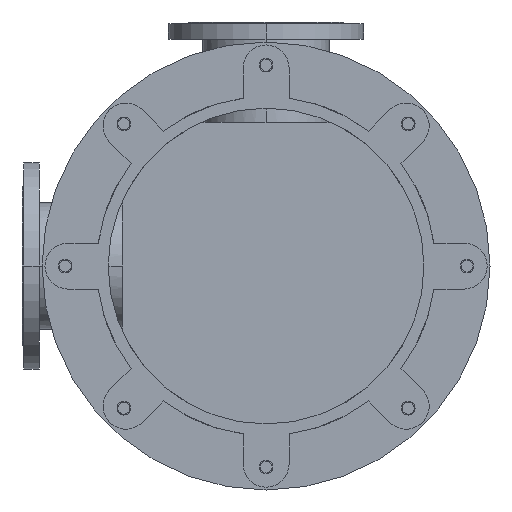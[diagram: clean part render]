
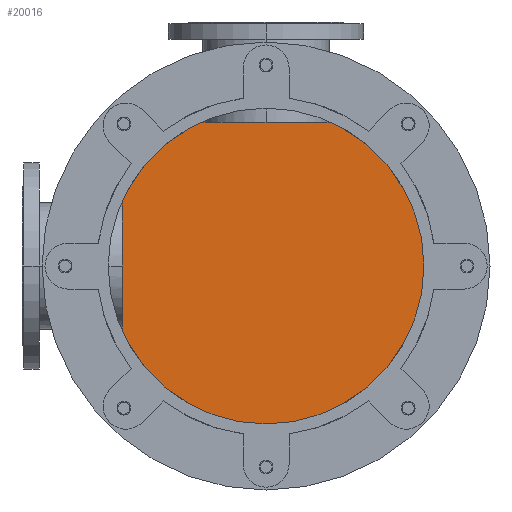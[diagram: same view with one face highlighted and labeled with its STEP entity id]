
A CAD part, front view. The second image highlights one B-rep face of the part: STEP entity #20016.
In plain terms, the highlighted planar face has unit normal (0, -1, 0).
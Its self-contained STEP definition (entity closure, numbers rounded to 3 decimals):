
#3690=CARTESIAN_POINT('',(0.,1117.,0.));
#3691=DIRECTION('',(0.,-1.,0.));
#3692=DIRECTION('',(0.,0.,-1.));
#3693=AXIS2_PLACEMENT_3D('',#3690,#3691,#3692);
#3855=CARTESIAN_POINT('',(0.,1117.,0.));
#3856=DIRECTION('',(0.,-1.,0.));
#3857=DIRECTION('',(0.,0.,1.));
#3858=AXIS2_PLACEMENT_3D('',#3855,#3856,#3857);
#9174=CARTESIAN_POINT('',(0.,1117.,290.));
#9175=CARTESIAN_POINT('',(0.,1117.,-290.));
#9176=VERTEX_POINT('',#9174);
#9177=VERTEX_POINT('',#9175);
#20007=CARTESIAN_POINT('',(0.,1117.,0.));
#20008=DIRECTION('',(0.,1.,0.));
#20009=DIRECTION('',(0.,0.,-1.));
#20010=AXIS2_PLACEMENT_3D('',#20007,#20008,#20009);
#20011=PLANE('',#20010);
#20012=ORIENTED_EDGE('',*,*,#15673,.F.);
#20013=ORIENTED_EDGE('',*,*,#15547,.F.);
#20014=EDGE_LOOP('',(#20012,#20013));
#20015=FACE_OUTER_BOUND('',#20014,.F.);
#20016=ADVANCED_FACE('',(#20015),#20011,.F.);
#3694=CIRCLE('',#3693,290.);
#3859=CIRCLE('',#3858,290.);
#15547=EDGE_CURVE('',#9177,#9176,#3694,.T.);
#15673=EDGE_CURVE('',#9176,#9177,#3859,.T.);
